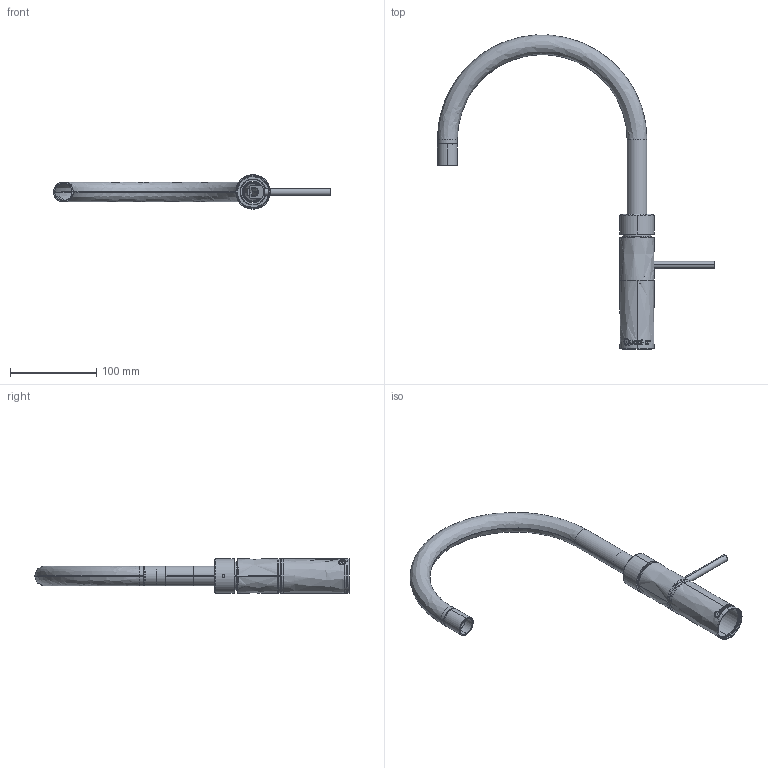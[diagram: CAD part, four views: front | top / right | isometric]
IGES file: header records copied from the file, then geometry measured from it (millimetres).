
Start section: SolidWorks IGES file using analytic representation for surfaces
Global section: file name: C:\SEPDM\Quooker_10\Projecten\PRJ_000015 - 3D Files kranen en ketels\Kranen\Fusion Round\Fusion Round compo.IGS; native system: SolidWorks 2012; preprocessor: SolidWorks 2012; author: r.peters; date: 140225.085107; units: millimetre
Bounding box: 321.4 x 364.33 x 40 mm (x, y, z)
Surface area: 109815.3 mm2 (no closed solid volume)
Topology: 0 solids, 0 shells, 228 faces, 4800 edges, 4794 vertices
Faces by surface type: revolution 119, bspline 109
